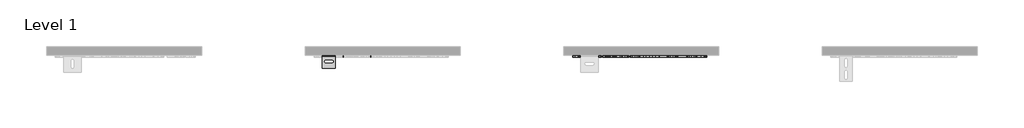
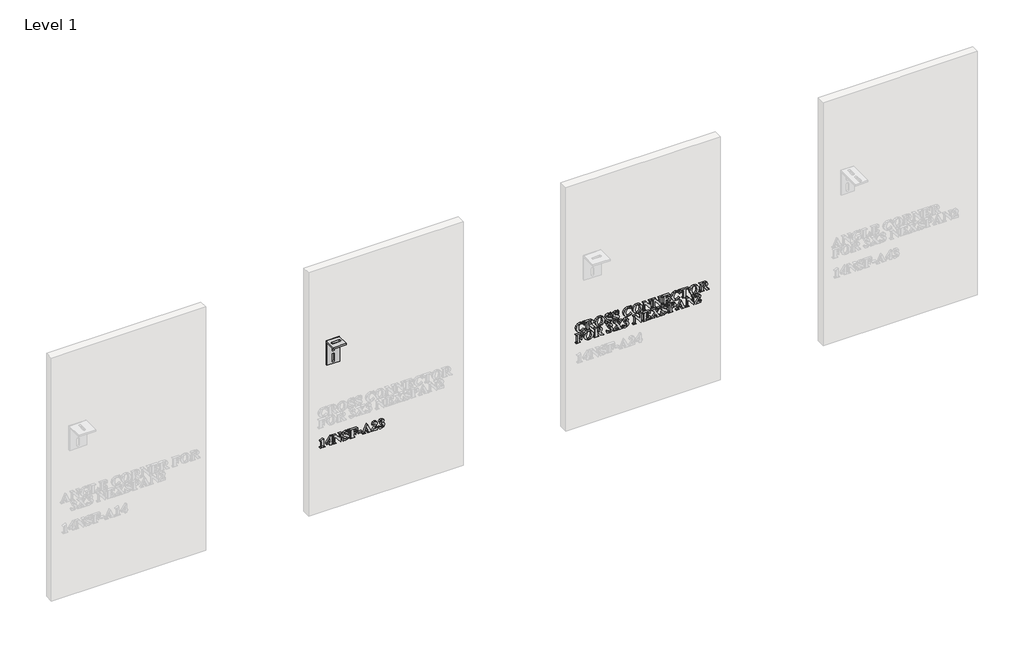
# One storey, part 6 of 21: 3 proxies.
"""IFC4 building model written with IfcOpenShell, lengths in millimetres."""

from ifc_helpers import new_model, si_unit, frame, origin, place, context, project, spatial, polyline, outline, extrude, transform, mapped, element, save
from components import generic_models_dfbbf76c

model = new_model("IFC4")

# Units and contexts
model_context = context("Model", 3, world=origin())
ifc_project = project(units=[si_unit("LENGTHUNIT", "METRE", prefix="MILLI")], contexts=[model_context])

# Site, building, storey
site = spatial("IfcSite", under=ifc_project)
building = spatial("IfcBuilding", under=site)
storey = spatial("IfcBuildingStorey", under=building, Name="Level 1", Elevation=0.0)

# Proxies
placement = place(None, origin())
element("IfcBuildingElementProxy", 1, Name="2\"\" Arial", ObjectType="2\"\" Arial", at=placement, inside=storey, context=model_context, shape_type="SweptSolid", body=[
    extrude(outline(polyline([(463.8692305, 5436.4026674), (455.0050049, 5416.6451396), (453.2321598, 5417.3099565), (454.4648412, 5421.8667225), (453.827725, 5423.9442753), (452.3111114, 5425.1769567), (447.9136245, 5425.5093652), (421.3209478, 5425.5093652), (415.2544934, 5424.9899769), (413.2046413, 5423.0024514), (412.4567222, 5416.6451396), (410.6838771, 5416.6451396), (410.6838771, 5445.0106614), (412.4567222, 5443.77798), (413.273893, 5439.3043162), (415.3791466, 5437.4691445), (421.3209478, 5437.0328584), (463.8692305, 5436.4026674)])), frame((0.0, -15490.3579358, 0.0), z_axis=(0.0, 1.0, 0.0), x_axis=(0.0, 0.0, 1.0)), (0.0, 0.0, 1.0), 12.7),
    extrude(outline(polyline([(430.1851733, 5453.874887), (422.2073703, 5453.874887), (422.2073703, 5472.4897607), (410.6838771, 5472.4897607), (410.6838771, 5484.0132539), (422.2073703, 5484.0132539), (422.2073703, 5488.4453667), (430.1851733, 5488.4453667), (430.1851733, 5484.0132539), (463.8692305, 5484.0132539), (463.8692305, 5478.9024738), (430.1851733, 5453.874887)]), holes=[polyline([(430.1851733, 5456.5618553), (451.6116686, 5472.4897607), (430.1851733, 5472.4897607), (430.1851733, 5456.5618553)])]), frame((0.0, -15490.3579358, 0.0), z_axis=(0.0, 1.0, 0.0), x_axis=(0.0, 0.0, 1.0)), (0.0, 0.0, 1.0), 12.7),
    extrude(outline(polyline([(462.9828079, 5511.0768426), (462.9828079, 5492.6558738), (461.2099628, 5492.6558738), (460.6074725, 5496.319292), (457.4565173, 5499.9688599), (419.5481027, 5499.9688599), (414.097989, 5498.4106952), (412.4567222, 5492.8774794), (410.6838771, 5492.8774794), (410.6838771, 5510.6059306), (412.4567222, 5509.5117527), (413.9179344, 5505.3358715), (419.5481027, 5503.5145501), (452.9551528, 5503.5145501), (409.7974546, 5537.3371108), (409.7974546, 5538.9714524), (452.3457373, 5538.9714524), (457.7820006, 5539.6293441), (460.0673087, 5541.4645158), (461.2099628, 5546.0628328), (462.9828079, 5546.0628328), (462.9828079, 5528.3343817), (461.2099628, 5528.3343817), (458.9662057, 5534.1653801), (452.3457373, 5535.4257622), (431.9164674, 5535.4257622), (462.9828079, 5511.0768426)])), frame((0.0, -15490.3579358, 0.0), z_axis=(0.0, 1.0, 0.0), x_axis=(0.0, 0.0, 1.0)), (0.0, 0.0, 1.0), 12.7),
    extrude(outline(polyline([(463.8692305, 5586.8382704), (463.8692305, 5585.0654253), (460.9329558, 5583.9573971), (460.3235403, 5582.3230555), (461.5631468, 5578.5626848), (463.259815, 5574.0128441), (463.8692305, 5568.9297647), (459.5409954, 5556.9976861), (449.0493534, 5552.2677907), (442.4427353, 5553.9021323), (437.0064719, 5558.5835514), (431.0992966, 5569.4283774), (427.0549937, 5577.1845748), (423.7863105, 5580.4463328), (420.2267699, 5581.5197351), (414.7905066, 5578.8535422), (412.4567222, 5571.6859848), (416.771107, 5560.8342337), (429.2987508, 5554.0406358), (429.2987508, 5552.2677907), (409.7974546, 5552.2677907), (409.7974546, 5554.0406358), (412.4705726, 5555.8619572), (413.3431448, 5558.0018366), (412.4844229, 5561.0627645), (410.3583938, 5566.6098307), (409.7974546, 5571.298175), (414.4788737, 5584.3590573), (425.6699585, 5589.4975381), (434.76964, 5586.8798215), (443.218355, 5574.1928986), (447.7058692, 5565.051666), (451.2654098, 5561.1320163), (454.3263377, 5560.2455937), (459.1254848, 5562.6694054), (461.2099628, 5569.2483228), (457.0756326, 5579.2621276), (446.1407794, 5585.0654253), (446.1407794, 5586.8382704), (463.8692305, 5586.8382704)])), frame((0.0, -15490.3579358, 0.0), z_axis=(0.0, 1.0, 0.0), x_axis=(0.0, 0.0, 1.0)), (0.0, 0.0, 1.0), 12.7),
    extrude(outline(polyline([(459.4371177, 5613.4309471), (459.4371177, 5617.8630599), (458.8415526, 5626.4225777), (455.1296581, 5632.8352909), (447.0272019, 5635.591511), (447.0272019, 5637.3643561), (462.9828079, 5637.3643561), (462.9828079, 5593.9296509), (461.2099628, 5593.9296509), (461.2099628, 5595.6055435), (460.5035948, 5598.9573288), (458.8484777, 5600.6124459), (454.1185824, 5601.0210313), (419.5481027, 5601.0210313), (414.963636, 5600.6193711), (413.2184916, 5599.123533), (412.4567222, 5595.6055435), (412.4567222, 5593.9296509), (410.6838771, 5593.9296509), (410.6838771, 5620.5223276), (412.4567222, 5620.5223276), (412.4567222, 5618.8602853), (413.1630902, 5615.5154252), (414.8182073, 5613.8533829), (419.5481027, 5613.4309471), (435.5037087, 5613.4309471), (435.5037087, 5615.2037922), (433.0868222, 5622.1151181), (423.0937929, 5625.8408629), (423.0937929, 5627.613708), (451.4593147, 5627.613708), (451.4593147, 5625.8408629), (444.0770768, 5623.9849157), (440.1989782, 5620.501552), (439.0493989, 5615.2037922), (439.0493989, 5613.4309471), (459.4371177, 5613.4309471)])), frame((0.0, -15490.3579358, 0.0), z_axis=(0.0, 1.0, 0.0), x_axis=(0.0, 0.0, 1.0)), (0.0, 0.0, 1.0), 12.7),
    extrude(outline(polyline([(5663.0706103, -15490.3579358), (5640.9100464, -15490.3579358), (5640.9100464, -15477.6579358), (5663.0706103, -15477.6579358), (5663.0706103, -15490.3579358)])), frame((0.0, 0.0, 424.866638), z_axis=(0.0, 0.0, 1.0), x_axis=(1.0, 0.0, 0.0)), (0.0, 0.0, 1.0), 7.977803),
    extrude(outline(polyline([(425.7530606, 5698.9153224), (419.1048914, 5701.8377468), (414.963636, 5703.222782), (413.273893, 5702.3779105), (412.4567222, 5697.0593752), (410.6838771, 5697.0593752), (410.6838771, 5722.4609215), (412.4567222, 5722.4609215), (413.8140568, 5718.7628774), (421.3070974, 5714.3307647), (463.8692305, 5694.6771145), (422.470527, 5675.8544856), (414.7420304, 5671.3877469), (412.4567222, 5666.7686544), (410.6838771, 5666.7686544), (410.6838771, 5684.5386566), (412.4567222, 5684.5386566), (413.3431448, 5679.4140261), (416.4317734, 5677.641181), (420.4345252, 5678.7215085), (425.7530606, 5681.1314699), (425.7530606, 5698.9153224)]), holes=[polyline([(429.2987508, 5697.3640829), (429.2987508, 5682.7381107), (445.6421667, 5690.1480493), (429.2987508, 5697.3640829)])]), frame((0.0, -15490.3579358, 0.0), z_axis=(0.0, 1.0, 0.0), x_axis=(0.0, 0.0, 1.0)), (0.0, 0.0, 1.0), 12.7),
    extrude(outline(polyline([(410.6838771, 5754.7737938), (425.7530606, 5756.394285), (422.664432, 5754.2959566), (421.6256555, 5752.2599548), (421.3209478, 5746.9067936), (421.3209478, 5735.7434095), (440.8914958, 5752.4607849), (451.1269062, 5755.2585561), (457.0617823, 5753.367983), (462.0479091, 5748.139475), (463.8692305, 5740.7572371), (460.3650913, 5730.7642078), (449.0493534, 5725.7434551), (453.516092, 5729.9124112), (455.0050049, 5735.4941032), (452.3249617, 5741.969143), (445.6006156, 5744.6214854), (434.2294763, 5741.5190065), (410.6838771, 5723.3473441), (410.6838771, 5754.7737938)])), frame((0.0, -15490.3579358, 0.0), z_axis=(0.0, 1.0, 0.0), x_axis=(0.0, 0.0, 1.0)), (0.0, 0.0, 1.0), 12.7),
    extrude(outline(polyline([(439.0493989, 5772.9870073), (432.8790669, 5784.8775348), (423.1214936, 5788.9426133), (417.3805225, 5786.8373597), (415.1159899, 5781.7958314), (418.2323192, 5774.5382467), (421.6533562, 5770.0368822), (422.2073703, 5767.5715194), (420.7184575, 5764.5452174), (417.124291, 5763.2363591), (412.4013208, 5765.4939666), (409.7974546, 5775.4385196), (411.3123369, 5784.6143781), (415.8569837, 5791.7265341), (422.5657482, 5796.2867626), (430.5729832, 5797.8068388), (439.1186507, 5794.9675166), (444.8526966, 5786.7265569), (449.0562786, 5793.1115694), (454.0216299, 5795.1475712), (460.9191054, 5791.5118536), (463.8692305, 5782.2805937), (461.4246433, 5772.3291155), (453.6061193, 5765.8956268), (458.5506952, 5775.2861658), (456.1892101, 5781.2348921), (450.5313411, 5783.6240779), (445.8291464, 5782.3429203), (442.3804087, 5779.302768), (439.0493989, 5772.9870073)])), frame((0.0, -15490.3579358, 0.0), z_axis=(0.0, 1.0, 0.0), x_axis=(0.0, 0.0, 1.0)), (0.0, 0.0, 1.0), 12.7),
])
element("IfcBuildingElementProxy", 2, Name="2\"\" Arial", ObjectType="2\"\" Arial", at=placement, inside=storey, context=model_context, shape_type="SweptSolid", body=[
    extrude(outline(polyline([(653.4647125, 6981.2755351), (653.4647125, 6979.50269), (650.7708189, 6978.3531107), (649.9190223, 6976.2617075), (651.2209554, 6971.8572954), (653.4647125, 6960.4723057), (649.8012943, 6946.6704295), (639.5035572, 6936.3449918), (625.4731502, 6932.5222945), (612.2460636, 6935.9918078), (602.710096, 6945.8463335), (599.3929366, 6960.4584554), (601.4220132, 6971.3863834), (607.9663047, 6980.3891125), (612.4676693, 6980.3891125), (605.0785062, 6972.0165745), (602.9386268, 6963.2700769), (605.854126, 6953.7964358), (614.4551948, 6948.4224991), (627.0797911, 6946.7050554), (639.8636664, 6949.0319146), (647.1420266, 6954.7659605), (649.9190223, 6963.3808797), (646.2625292, 6973.4431608), (635.7362614, 6979.50269), (635.7362614, 6981.2755351), (653.4647125, 6981.2755351)])), frame((0.0, -15490.3579358, 0.0), z_axis=(0.0, 1.0, 0.0), x_axis=(0.0, 0.0, 1.0)), (0.0, 0.0, 1.0), 12.7),
    extrude(outline(polyline([(624.2127681, 7006.9817892), (624.2127681, 7010.4166766), (600.2793591, 7027.2033038), (600.2793591, 7043.325114), (602.0522042, 7043.325114), (603.3956884, 7040.0564309), (607.7723998, 7036.9124009), (625.4592998, 7024.5024851), (628.9911397, 7031.455362), (638.395529, 7035.347311), (646.5326111, 7032.5841657), (651.2902072, 7025.4512342), (652.5782899, 7011.649358), (652.5782899, 6987.480493), (650.8054448, 6987.480493), (650.2029545, 6992.2657898), (648.5963136, 6994.0594104), (643.7140644, 6994.5718734), (609.1435847, 6994.5718734), (604.2751858, 6994.0594104), (602.6685449, 6992.2865653), (602.0522042, 6987.480493), (600.2793591, 6987.480493), (600.2793591, 7014.0731697), (602.0522042, 7014.0731697), (602.6546946, 7009.2878729), (604.2613354, 7007.4942523), (609.1435847, 7006.9817892), (624.2127681, 7006.9817892)]), holes=[polyline([(649.9190223, 7006.9817892), (649.9190223, 7011.1091942), (647.0450741, 7020.139624), (638.160073, 7022.9373952), (631.4288018, 7021.4138565), (627.862336, 7017.2241249), (626.8720358, 7009.1839953), (626.8720358, 7006.9817892), (649.9190223, 7006.9817892)])]), frame((0.0, -15490.3579358, 0.0), z_axis=(0.0, 1.0, 0.0), x_axis=(0.0, 0.0, 1.0)), (0.0, 0.0, 1.0), 12.7),
    extrude(outline(polyline([(653.4647125, 7073.1172221), (651.8788471, 7062.5753726), (646.1794271, 7053.8306064), (637.4606302, 7047.9459379), (626.8166344, 7045.9843817), (617.1733265, 7047.4906075), (608.9358294, 7052.009285), (601.7786598, 7061.2266946), (599.3929366, 7073.6158348), (601.8929252, 7085.9738118), (609.392891, 7095.1808336), (626.8581854, 7100.9425802), (637.4969874, 7099.010456), (646.2002026, 7093.2140835), (651.884041, 7084.3256199), (653.4647125, 7073.1172221)]), holes=[polyline([(650.8054448, 7073.5742838), (648.6863409, 7080.1878271), (641.4356814, 7084.9107972), (625.9440622, 7086.7598193), (611.8444034, 7084.9454231), (603.9774032, 7079.8761941), (602.0522042, 7073.505032), (606.5120177, 7064.6823575), (626.2487699, 7060.1671426), (643.4924587, 7063.089567), (648.9771983, 7067.511292), (650.8054448, 7073.5742838)])]), frame((0.0, -15490.3579358, 0.0), z_axis=(0.0, 1.0, 0.0), x_axis=(0.0, 0.0, 1.0)), (0.0, 0.0, 1.0), 12.7),
    extrude(outline(polyline([(653.4647125, 7142.6044403), (653.4647125, 7140.8315952), (650.5284378, 7139.723567), (649.9190223, 7138.0892254), (651.1586288, 7134.3288548), (652.855297, 7129.779014), (653.4647125, 7124.6959346), (649.1364773, 7112.763856), (638.6448354, 7108.0339606), (632.0382173, 7109.6683022), (626.6019539, 7114.3497214), (620.6947786, 7125.1945473), (616.6504757, 7132.9507447), (613.3817925, 7136.2125027), (609.8222519, 7137.285905), (604.3859886, 7134.6197122), (602.0522042, 7127.4521548), (606.366589, 7116.6004036), (618.8942328, 7109.8068058), (618.8942328, 7108.0339606), (599.3929366, 7108.0339606), (599.3929366, 7109.8068058), (602.0660546, 7111.6281271), (602.9386268, 7113.7680066), (602.0799049, 7116.8289344), (599.9538758, 7122.3760006), (599.3929366, 7127.0643449), (604.0743557, 7140.1252273), (615.2654405, 7145.263708), (624.365122, 7142.6459914), (632.813837, 7129.9590686), (637.3013512, 7120.8178359), (640.8608918, 7116.8981862), (643.9218197, 7116.0117637), (648.7209668, 7118.4355753), (650.8054448, 7125.0144927), (646.6711146, 7135.0282976), (635.7362614, 7140.8315952), (635.7362614, 7142.6044403), (653.4647125, 7142.6044403)])), frame((0.0, -15490.3579358, 0.0), z_axis=(0.0, 1.0, 0.0), x_axis=(0.0, 0.0, 1.0)), (0.0, 0.0, 1.0), 12.7),
    extrude(outline(polyline([(653.4647125, 7186.0391456), (653.4647125, 7184.2663005), (650.5284378, 7183.1582723), (649.9190223, 7181.5239307), (651.1586288, 7177.76356), (652.855297, 7173.2137192), (653.4647125, 7168.1306399), (649.1364773, 7156.1985613), (638.6448354, 7151.4686659), (632.0382173, 7153.1030075), (626.6019539, 7157.7844266), (620.6947786, 7168.6292526), (616.6504757, 7176.38545), (613.3817925, 7179.647208), (609.8222519, 7180.7206103), (604.3859886, 7178.0544174), (602.0522042, 7170.88686), (606.366589, 7160.0351089), (618.8942328, 7153.241511), (618.8942328, 7151.4686659), (599.3929366, 7151.4686659), (599.3929366, 7153.241511), (602.0660546, 7155.0628324), (602.9386268, 7157.2027118), (602.0799049, 7160.2636397), (599.9538758, 7165.8107059), (599.3929366, 7170.4990502), (604.0743557, 7183.5599325), (615.2654405, 7188.6984133), (624.365122, 7186.0806967), (632.813837, 7173.3937738), (637.3013512, 7164.2525412), (640.8608918, 7160.3328915), (643.9218197, 7159.4464689), (648.7209668, 7161.8702806), (650.8054448, 7168.449198), (646.6711146, 7178.4630028), (635.7362614, 7184.2663005), (635.7362614, 7186.0391456), (653.4647125, 7186.0391456)])), frame((0.0, -15490.3579358, 0.0), z_axis=(0.0, 1.0, 0.0), x_axis=(0.0, 0.0, 1.0)), (0.0, 0.0, 1.0), 12.7),
    extrude(outline(polyline([(653.4647125, 7262.2714854), (653.4647125, 7260.4986403), (650.7708189, 7259.3490611), (649.9190223, 7257.2576579), (651.2209554, 7252.8532458), (653.4647125, 7241.4682561), (649.8012943, 7227.6663799), (639.5035572, 7217.3409421), (625.4731502, 7213.5182448), (612.2460636, 7216.9877581), (602.710096, 7226.8422839), (599.3929366, 7241.4544057), (601.4220132, 7252.3823338), (607.9663047, 7261.3850629), (612.4676693, 7261.3850629), (605.0785062, 7253.0125248), (602.9386268, 7244.2660273), (605.854126, 7234.7923862), (614.4551948, 7229.4184495), (627.0797911, 7227.7010058), (639.8636664, 7230.027865), (647.1420266, 7235.7619109), (649.9190223, 7244.3768301), (646.2625292, 7254.4391111), (635.7362614, 7260.4986403), (635.7362614, 7262.2714854), (653.4647125, 7262.2714854)])), frame((0.0, -15490.3579358, 0.0), z_axis=(0.0, 1.0, 0.0), x_axis=(0.0, 0.0, 1.0)), (0.0, 0.0, 1.0), 12.7),
    extrude(outline(polyline([(653.4647125, 7297.3821289), (651.8788471, 7286.8402794), (646.1794271, 7278.0955131), (637.4606302, 7272.2108446), (626.8166344, 7270.2492885), (617.1733265, 7271.7555143), (608.9358294, 7276.2741918), (601.7786598, 7285.4916013), (599.3929366, 7297.8807416), (601.8929252, 7310.2387185), (609.392891, 7319.4457403), (626.8581854, 7325.2074869), (637.4969874, 7323.2753628), (646.2002026, 7317.4789903), (651.884041, 7308.5905266), (653.4647125, 7297.3821289)]), holes=[polyline([(650.8054448, 7297.8391905), (648.6863409, 7304.4527338), (641.4356814, 7309.175704), (625.9440622, 7311.024726), (611.8444034, 7309.2103299), (603.9774032, 7304.1411009), (602.0522042, 7297.7699388), (606.5120177, 7288.9472643), (626.2487699, 7284.4320494), (643.4924587, 7287.3544737), (648.9771983, 7291.7761987), (650.8054448, 7297.8391905)])]), frame((0.0, -15490.3579358, 0.0), z_axis=(0.0, 1.0, 0.0), x_axis=(0.0, 0.0, 1.0)), (0.0, 0.0, 1.0), 12.7),
    extrude(outline(polyline([(652.5782899, 7347.8389628), (652.5782899, 7329.4179941), (650.8054448, 7329.4179941), (650.2029545, 7333.0814123), (647.0519993, 7336.7309802), (609.1435847, 7336.7309802), (603.693471, 7335.1728155), (602.0522042, 7329.6395997), (600.2793591, 7329.6395997), (600.2793591, 7347.3680509), (602.0522042, 7346.273873), (603.5134164, 7342.0979918), (609.1435847, 7340.2766704), (642.5506348, 7340.2766704), (599.3929366, 7374.0992311), (599.3929366, 7375.7335727), (641.9412193, 7375.7335727), (647.3774826, 7376.3914644), (649.6627907, 7378.2266361), (650.8054448, 7382.8249531), (652.5782899, 7382.8249531), (652.5782899, 7365.096502), (650.8054448, 7365.096502), (648.5616877, 7370.9275004), (641.9412193, 7372.1878824), (621.5119494, 7372.1878824), (652.5782899, 7347.8389628)])), frame((0.0, -15490.3579358, 0.0), z_axis=(0.0, 1.0, 0.0), x_axis=(0.0, 0.0, 1.0)), (0.0, 0.0, 1.0), 12.7),
    extrude(outline(polyline([(652.5782899, 7404.5700064), (652.5782899, 7386.1490377), (650.8054448, 7386.1490377), (650.2029545, 7389.8124559), (647.0519993, 7393.4620238), (609.1435847, 7393.4620238), (603.693471, 7391.9038591), (602.0522042, 7386.3706433), (600.2793591, 7386.3706433), (600.2793591, 7404.0990945), (602.0522042, 7403.0049166), (603.5134164, 7398.8290354), (609.1435847, 7397.007714), (642.5506348, 7397.007714), (599.3929366, 7430.8302747), (599.3929366, 7432.4646163), (641.9412193, 7432.4646163), (647.3774826, 7433.122508), (649.6627907, 7434.9576797), (650.8054448, 7439.5559967), (652.5782899, 7439.5559967), (652.5782899, 7421.8275456), (650.8054448, 7421.8275456), (648.5616877, 7427.658544), (641.9412193, 7428.918926), (621.5119494, 7428.918926), (652.5782899, 7404.5700064)])), frame((0.0, -15490.3579358, 0.0), z_axis=(0.0, 1.0, 0.0), x_axis=(0.0, 0.0, 1.0)), (0.0, 0.0, 1.0), 12.7),
    extrude(outline(polyline([(649.0325997, 7463.4894057), (649.0325997, 7467.9215185), (648.3400821, 7475.9547229), (644.7320653, 7481.6472178), (636.6226839, 7484.7635471), (636.6226839, 7486.5363922), (652.5782899, 7486.5363922), (652.5782899, 7443.9881095), (650.8054448, 7443.9881095), (650.8054448, 7445.6640021), (649.7805187, 7449.5144001), (647.827619, 7450.8994354), (643.7140644, 7451.0794899), (609.1435847, 7451.0794899), (604.559118, 7450.6778297), (602.8139736, 7449.1819917), (602.0522042, 7445.6640021), (602.0522042, 7443.9881095), (600.2793591, 7443.9881095), (600.2793591, 7487.7967743), (616.8859317, 7488.7385982), (606.4427659, 7482.6236676), (602.9386268, 7471.3010045), (602.9386268, 7468.2816277), (603.5549675, 7465.1652984), (605.1339076, 7463.8425897), (610.4039667, 7463.4894057), (625.0991907, 7463.4894057), (624.0950401, 7468.4963081), (620.1753904, 7471.5295353), (612.6892749, 7473.2400539), (612.6892749, 7475.012899), (640.1683741, 7475.012899), (640.1683741, 7473.2400539), (630.9024884, 7470.7331401), (627.7584584, 7463.4894057), (649.0325997, 7463.4894057)])), frame((0.0, -15490.3579358, 0.0), z_axis=(0.0, 1.0, 0.0), x_axis=(0.0, 0.0, 1.0)), (0.0, 0.0, 1.0), 12.7),
    extrude(outline(polyline([(653.4647125, 7545.9267035), (653.4647125, 7544.1538584), (650.7708189, 7543.0042791), (649.9190223, 7540.9128759), (651.2209554, 7536.5084638), (653.4647125, 7525.1234741), (649.8012943, 7511.3215979), (639.5035572, 7500.9961602), (625.4731502, 7497.1734629), (612.2460636, 7500.6429762), (602.710096, 7510.4975019), (599.3929366, 7525.1096238), (601.4220132, 7536.0375518), (607.9663047, 7545.0402809), (612.4676693, 7545.0402809), (605.0785062, 7536.6677429), (602.9386268, 7527.9212453), (605.854126, 7518.4476042), (614.4551948, 7513.0736675), (627.0797911, 7511.3562238), (639.8636664, 7513.683083), (647.1420266, 7519.4171289), (649.9190223, 7528.0320481), (646.2625292, 7538.0943292), (635.7362614, 7544.1538584), (635.7362614, 7545.9267035), (653.4647125, 7545.9267035)])), frame((0.0, -15490.3579358, 0.0), z_axis=(0.0, 1.0, 0.0), x_axis=(0.0, 0.0, 1.0)), (0.0, 0.0, 1.0), 12.7),
    extrude(outline(polyline([(652.5782899, 7599.9984794), (652.5782899, 7553.9045065), (637.5091065, 7553.9045065), (637.5091065, 7555.6773516), (646.7195908, 7559.7770559), (649.0325997, 7567.2008448), (649.0325997, 7570.7465351), (609.1435847, 7570.7465351), (604.559118, 7570.3448748), (602.8139736, 7568.8213361), (602.0522042, 7565.3171969), (602.0522042, 7563.6551546), (600.2793591, 7563.6551546), (600.2793591, 7590.2478313), (602.0522042, 7590.2478313), (602.0522042, 7588.5996394), (602.7585722, 7585.2340037), (604.4136893, 7583.5788866), (609.1435847, 7583.1564508), (649.0325997, 7583.1564508), (649.0325997, 7586.7021411), (648.3123814, 7591.6328665), (644.7874667, 7595.5940673), (637.5091065, 7598.2256343), (637.5091065, 7599.9984794), (652.5782899, 7599.9984794)])), frame((0.0, -15490.3579358, 0.0), z_axis=(0.0, 1.0, 0.0), x_axis=(0.0, 0.0, 1.0)), (0.0, 0.0, 1.0), 12.7),
    extrude(outline(polyline([(653.4647125, 7633.3362777), (651.8788471, 7622.7944282), (646.1794271, 7614.049662), (637.4606302, 7608.1649935), (626.8166344, 7606.2034373), (617.1733265, 7607.7096631), (608.9358294, 7612.2283406), (601.7786598, 7621.4457502), (599.3929366, 7633.8348904), (601.8929252, 7646.1928674), (609.392891, 7655.3998892), (626.8581854, 7661.1616358), (637.4969874, 7659.2295116), (646.2002026, 7653.4331391), (651.884041, 7644.5446755), (653.4647125, 7633.3362777)]), holes=[polyline([(650.8054448, 7633.7933394), (648.6863409, 7640.4068827), (641.4356814, 7645.1298529), (625.9440622, 7646.9788749), (611.8444034, 7645.1644787), (603.9774032, 7640.0952497), (602.0522042, 7633.7240876), (606.5120177, 7624.9014131), (626.2487699, 7620.3861982), (643.4924587, 7623.3086226), (648.9771983, 7627.7303476), (650.8054448, 7633.7933394)])]), frame((0.0, -15490.3579358, 0.0), z_axis=(0.0, 1.0, 0.0), x_axis=(0.0, 0.0, 1.0)), (0.0, 0.0, 1.0), 12.7),
    extrude(outline(polyline([(624.2127681, 7685.0950448), (624.2127681, 7688.5299322), (600.2793591, 7705.3165594), (600.2793591, 7721.4383696), (602.0522042, 7721.4383696), (603.3956884, 7718.1696865), (607.7723998, 7715.0256565), (625.4592998, 7702.6157407), (628.9911397, 7709.5686176), (638.395529, 7713.4605666), (646.5326111, 7710.6974213), (651.2902072, 7703.5644898), (652.5782899, 7689.7626136), (652.5782899, 7665.5937486), (650.8054448, 7665.5937486), (650.2029545, 7670.3790454), (648.5963136, 7672.172666), (643.7140644, 7672.685129), (609.1435847, 7672.685129), (604.2751858, 7672.172666), (602.6685449, 7670.3998209), (602.0522042, 7665.5937486), (600.2793591, 7665.5937486), (600.2793591, 7692.1864253), (602.0522042, 7692.1864253), (602.6546946, 7687.4011285), (604.2613354, 7685.6075079), (609.1435847, 7685.0950448), (624.2127681, 7685.0950448)]), holes=[polyline([(649.9190223, 7685.0950448), (649.9190223, 7689.2224499), (647.0450741, 7698.2528796), (638.160073, 7701.0506508), (631.4288018, 7699.5271121), (627.862336, 7695.3373805), (626.8720358, 7687.2972509), (626.8720358, 7685.0950448), (649.9190223, 7685.0950448)])]), frame((0.0, -15490.3579358, 0.0), z_axis=(0.0, 1.0, 0.0), x_axis=(0.0, 0.0, 1.0)), (0.0, 0.0, 1.0), 12.7),
    extrude(outline(polyline([(584.9362614, 6951.1371682), (584.9362614, 6955.569281), (584.3406962, 6964.1287988), (580.6288018, 6970.5415119), (572.5263456, 6973.2977321), (572.5263456, 6975.0705772), (588.4819516, 6975.0705772), (588.4819516, 6931.6358719), (586.7091065, 6931.6358719), (586.7091065, 6933.3117646), (586.0027385, 6936.6635499), (584.3476214, 6938.318667), (579.617726, 6938.7272524), (545.0472463, 6938.7272524), (540.4627797, 6938.3255922), (538.7176353, 6936.8297541), (537.9558659, 6933.3117646), (537.9558659, 6931.6358719), (536.1830208, 6931.6358719), (536.1830208, 6958.2285486), (537.9558659, 6958.2285486), (537.9558659, 6956.5665063), (538.6622338, 6953.2216462), (540.317351, 6951.5596039), (545.0472463, 6951.1371682), (561.0028523, 6951.1371682), (561.0028523, 6952.9100133), (558.5859658, 6959.8213392), (548.5929366, 6963.547084), (548.5929366, 6965.3199291), (576.9584584, 6965.3199291), (576.9584584, 6963.547084), (569.5762205, 6961.6911367), (565.6981218, 6958.2077731), (564.5485426, 6952.9100133), (564.5485426, 6951.1371682), (584.9362614, 6951.1371682)])), frame((0.0, -15490.3579358, 0.0), z_axis=(0.0, 1.0, 0.0), x_axis=(0.0, 0.0, 1.0)), (0.0, 0.0, 1.0), 12.7),
    extrude(outline(polyline([(589.3683741, 7007.521953), (587.7825088, 6996.9801035), (582.0830888, 6988.2353372), (573.3642919, 6982.3506687), (562.720296, 6980.3891125), (553.0769882, 6981.8953384), (544.839491, 6986.4140158), (537.6823214, 6995.6314254), (535.2965982, 7008.0205657), (537.7965868, 7020.3785426), (545.2965527, 7029.5855644), (562.7618471, 7035.347311), (573.4006491, 7033.4151869), (582.1038643, 7027.6188144), (587.7877027, 7018.7303507), (589.3683741, 7007.521953)]), holes=[polyline([(586.7091065, 7007.9790146), (584.5900026, 7014.5925579), (577.339343, 7019.3155281), (561.8477238, 7021.1645501), (547.7480651, 7019.350154), (539.8810649, 7014.280925), (537.9558659, 7007.9097628), (542.4156794, 6999.0870883), (562.1524316, 6994.5718734), (579.3961204, 6997.4942978), (584.88086, 7001.9160228), (586.7091065, 7007.9790146)])]), frame((0.0, -15490.3579358, 0.0), z_axis=(0.0, 1.0, 0.0), x_axis=(0.0, 0.0, 1.0)), (0.0, 0.0, 1.0), 12.7),
    extrude(outline(polyline([(560.1164298, 7059.28072), (560.1164298, 7062.7156075), (536.1830208, 7079.5022346), (536.1830208, 7095.6240449), (537.9558659, 7095.6240449), (539.2993501, 7092.3553617), (543.6760614, 7089.2113317), (561.3629615, 7076.8014159), (564.8948014, 7083.7542928), (574.2991907, 7087.6462418), (582.4362727, 7084.8830965), (587.1938688, 7077.750165), (588.4819516, 7063.9482888), (588.4819516, 7039.7794238), (586.7091065, 7039.7794238), (586.1066161, 7044.5647206), (584.4999753, 7046.3583412), (579.617726, 7046.8708043), (545.0472463, 7046.8708043), (540.1788474, 7046.3583412), (538.5722066, 7044.5854961), (537.9558659, 7039.7794238), (536.1830208, 7039.7794238), (536.1830208, 7066.3721005), (537.9558659, 7066.3721005), (538.5583562, 7061.5868037), (540.1649971, 7059.7931831), (545.0472463, 7059.28072), (560.1164298, 7059.28072)]), holes=[polyline([(585.8226839, 7059.28072), (585.8226839, 7063.4081251), (582.9487358, 7072.4385549), (574.0637347, 7075.2363261), (567.3324634, 7073.7127873), (563.7659977, 7069.5230557), (562.7756975, 7061.4829261), (562.7756975, 7059.28072), (585.8226839, 7059.28072)])]), frame((0.0, -15490.3579358, 0.0), z_axis=(0.0, 1.0, 0.0), x_axis=(0.0, 0.0, 1.0)), (0.0, 0.0, 1.0), 12.7),
    extrude(outline(polyline([(564.5485426, 7124.8759892), (558.3782106, 7136.7665168), (548.6206373, 7140.8315952), (542.8796662, 7138.7263417), (540.6151335, 7133.6848134), (543.7314628, 7126.4272287), (547.1524999, 7121.9258641), (547.706514, 7119.4605014), (546.2176011, 7116.4341994), (542.6234346, 7115.1253411), (537.9004645, 7117.3829485), (535.2965982, 7127.3275016), (536.8114805, 7136.5033601), (541.3561274, 7143.6155161), (548.0648919, 7148.1757446), (556.0721269, 7149.6958208), (564.6177943, 7146.8564985), (570.3518402, 7138.6155388), (574.5554222, 7145.0005513), (579.5207736, 7147.0365531), (586.4182491, 7143.4008356), (589.3683741, 7134.1695757), (586.9237869, 7124.2180975), (579.105263, 7117.7846088), (584.0498388, 7127.1751477), (581.6883537, 7133.1238741), (576.0304847, 7135.5130599), (571.3282901, 7134.2319023), (567.8795523, 7131.1917499), (564.5485426, 7124.8759892)])), frame((0.0, -15490.3579358, 0.0), z_axis=(0.0, 1.0, 0.0), x_axis=(0.0, 0.0, 1.0)), (0.0, 0.0, 1.0), 12.7),
    extrude(outline(polyline([(566.5845444, 7187.2302759), (578.4681468, 7196.7177673), (584.2021927, 7201.7315949), (586.1481672, 7204.6955703), (586.7091065, 7208.3520634), (588.4819516, 7208.3520634), (588.4819516, 7188.9200189), (586.7091065, 7188.9200189), (586.2243441, 7192.382607), (584.88086, 7194.1000507), (583.0110624, 7194.6956159), (575.9473826, 7190.457408), (569.5069687, 7185.3050769), (579.146814, 7178.9754659), (584.3406962, 7176.0530415), (586.0304392, 7176.939464), (586.7091065, 7181.3577265), (588.4819516, 7181.3577265), (588.4819516, 7155.8176766), (586.7091065, 7155.8176766), (585.9334867, 7158.5877471), (584.2021927, 7160.6237489), (579.0775623, 7164.363344), (559.4377625, 7177.2718725), (546.8616425, 7167.2026663), (539.7425613, 7160.000483), (537.9558659, 7154.6126959), (536.1830208, 7154.6126959), (536.1830208, 7174.9588636), (537.9558659, 7174.9588636), (538.1774715, 7171.6486294), (539.4655543, 7168.9131848), (541.4046036, 7167.9921364), (547.000146, 7171.5655273), (556.5291885, 7179.1832211), (545.781315, 7186.2469009), (540.4627797, 7189.2108763), (538.8422884, 7188.3244538), (537.9558659, 7184.404804), (536.1830208, 7184.404804), (536.1830208, 7209.6955476), (537.9558659, 7209.6955476), (539.2993501, 7206.0944559), (545.6428115, 7200.9836759), (566.5845444, 7187.2302759)])), frame((0.0, -15490.3579358, 0.0), z_axis=(0.0, 1.0, 0.0), x_axis=(0.0, 0.0, 1.0)), (0.0, 0.0, 1.0), 12.7),
    extrude(outline(polyline([(564.5485426, 7220.6096253), (558.3782106, 7232.5001529), (548.6206373, 7236.5652313), (542.8796662, 7234.4599777), (540.6151335, 7229.4184495), (543.7314628, 7222.1608648), (547.1524999, 7217.6595002), (547.706514, 7215.1941375), (546.2176011, 7212.1678355), (542.6234346, 7210.8589772), (537.9004645, 7213.1165846), (535.2965982, 7223.0611377), (536.8114805, 7232.2369962), (541.3561274, 7239.3491522), (548.0648919, 7243.9093807), (556.0721269, 7245.4294569), (564.6177943, 7242.5901346), (570.3518402, 7234.3491749), (574.5554222, 7240.7341874), (579.5207736, 7242.7701892), (586.4182491, 7239.1344717), (589.3683741, 7229.9032118), (586.9237869, 7219.9517336), (579.105263, 7213.5182448), (584.0498388, 7222.9087838), (581.6883537, 7228.8575102), (576.0304847, 7231.246696), (571.3282901, 7229.9655384), (567.8795523, 7226.925386), (564.5485426, 7220.6096253)])), frame((0.0, -15490.3579358, 0.0), z_axis=(0.0, 1.0, 0.0), x_axis=(0.0, 0.0, 1.0)), (0.0, 0.0, 1.0), 12.7),
    extrude(outline(polyline([(588.4819516, 7289.3350741), (588.4819516, 7270.9141054), (586.7091065, 7270.9141054), (586.1066161, 7274.5775236), (582.955661, 7278.2270915), (545.0472463, 7278.2270915), (539.5971326, 7276.6689268), (537.9558659, 7271.135711), (536.1830208, 7271.135711), (536.1830208, 7288.8641621), (537.9558659, 7287.7699843), (539.4170781, 7283.594103), (545.0472463, 7281.7727817), (578.4542964, 7281.7727817), (535.2965982, 7315.5953424), (535.2965982, 7317.2296839), (577.8448809, 7317.2296839), (583.2811442, 7317.8875757), (585.5664524, 7319.7227474), (586.7091065, 7324.3210644), (588.4819516, 7324.3210644), (588.4819516, 7306.5926133), (586.7091065, 7306.5926133), (584.4653494, 7312.4236116), (577.8448809, 7313.6839937), (557.4156111, 7313.6839937), (588.4819516, 7289.3350741)])), frame((0.0, -15490.3579358, 0.0), z_axis=(0.0, 1.0, 0.0), x_axis=(0.0, 0.0, 1.0)), (0.0, 0.0, 1.0), 12.7),
    extrude(outline(polyline([(584.9362614, 7348.2544734), (584.9362614, 7352.6865862), (584.2437437, 7360.7197906), (580.6357269, 7366.4122855), (572.5263456, 7369.5286148), (572.5263456, 7371.3014599), (588.4819516, 7371.3014599), (588.4819516, 7328.7531772), (586.7091065, 7328.7531772), (586.7091065, 7330.4290698), (585.6841804, 7334.2794678), (583.7312807, 7335.664503), (579.617726, 7335.8445576), (545.0472463, 7335.8445576), (540.4627797, 7335.4428974), (538.7176353, 7333.9470593), (537.9558659, 7330.4290698), (537.9558659, 7328.7531772), (536.1830208, 7328.7531772), (536.1830208, 7372.561842), (552.7895933, 7373.5036659), (542.3464276, 7367.3887353), (538.8422884, 7356.0660722), (538.8422884, 7353.0466954), (539.4586291, 7349.9303661), (541.0375693, 7348.6076574), (546.3076284, 7348.2544734), (561.0028523, 7348.2544734), (559.9987018, 7353.2613758), (556.079052, 7356.294603), (548.5929366, 7358.0051215), (548.5929366, 7359.7779666), (576.0720358, 7359.7779666), (576.0720358, 7358.0051215), (566.80615, 7355.4982077), (563.66212, 7348.2544734), (584.9362614, 7348.2544734)])), frame((0.0, -15490.3579358, 0.0), z_axis=(0.0, 1.0, 0.0), x_axis=(0.0, 0.0, 1.0)), (0.0, 0.0, 1.0), 12.7),
    extrude(outline(polyline([(566.5845444, 7411.4951827), (578.4681468, 7420.9826741), (584.2021927, 7425.9965017), (586.1481672, 7428.9604771), (586.7091065, 7432.6169701), (588.4819516, 7432.6169701), (588.4819516, 7413.1849257), (586.7091065, 7413.1849257), (586.2243441, 7416.6475138), (584.88086, 7418.3649575), (583.0110624, 7418.9605226), (575.9473826, 7414.7223148), (569.5069687, 7409.5699837), (579.146814, 7403.2403726), (584.3406962, 7400.3179482), (586.0304392, 7401.2043708), (586.7091065, 7405.6226332), (588.4819516, 7405.6226332), (588.4819516, 7380.0825833), (586.7091065, 7380.0825833), (585.9334867, 7382.8526538), (584.2021927, 7384.8886556), (579.0775623, 7388.6282508), (559.4377625, 7401.5367793), (546.8616425, 7391.467573), (539.7425613, 7384.2653898), (537.9558659, 7378.8776027), (536.1830208, 7378.8776027), (536.1830208, 7399.2237704), (537.9558659, 7399.2237704), (538.1774715, 7395.9135362), (539.4655543, 7393.1780916), (541.4046036, 7392.2570431), (547.000146, 7395.8304341), (556.5291885, 7403.4481279), (545.781315, 7410.5118076), (540.4627797, 7413.4757831), (538.8422884, 7412.5893605), (537.9558659, 7408.6697108), (536.1830208, 7408.6697108), (536.1830208, 7433.9604543), (537.9558659, 7433.9604543), (539.2993501, 7430.3593627), (545.6428115, 7425.2485826), (566.5845444, 7411.4951827)])), frame((0.0, -15490.3579358, 0.0), z_axis=(0.0, 1.0, 0.0), x_axis=(0.0, 0.0, 1.0)), (0.0, 0.0, 1.0), 12.7),
    extrude(outline(polyline([(589.3683741, 7473.2400539), (589.3683741, 7471.4672087), (586.4320994, 7470.3591806), (585.8226839, 7468.724839), (587.0622905, 7464.9644683), (588.7589586, 7460.4146275), (589.3683741, 7455.3315481), (585.040139, 7443.3994695), (574.548497, 7438.6695742), (567.9418789, 7440.3039157), (562.5056156, 7444.9853349), (556.5984403, 7455.8301608), (552.5541373, 7463.5863582), (549.2854542, 7466.8481162), (545.7259136, 7467.9215185), (540.2896503, 7465.2553257), (537.9558659, 7458.0877683), (542.2702507, 7447.2360171), (554.7978944, 7440.4424193), (554.7978944, 7438.6695742), (535.2965982, 7438.6695742), (535.2965982, 7440.4424193), (537.9697162, 7442.2637406), (538.8422884, 7444.4036201), (537.9835666, 7447.464548), (535.8575375, 7453.0116141), (535.2965982, 7457.6999584), (539.9780173, 7470.7608408), (551.1691021, 7475.8993215), (560.2687837, 7473.2816049), (568.7174987, 7460.5946821), (573.2050128, 7451.4534495), (576.7645534, 7447.5337997), (579.8254813, 7446.6473772), (584.6246284, 7449.0711888), (586.7091065, 7455.6501063), (582.5747763, 7465.6639111), (571.639923, 7471.4672087), (571.639923, 7473.2400539), (589.3683741, 7473.2400539)])), frame((0.0, -15490.3579358, 0.0), z_axis=(0.0, 1.0, 0.0), x_axis=(0.0, 0.0, 1.0)), (0.0, 0.0, 1.0), 12.7),
    extrude(outline(polyline([(560.1164298, 7498.946308), (561.030553, 7512.2010953), (565.9266526, 7521.3354027), (574.5623474, 7524.6525621), (584.5069004, 7519.6041087), (588.4819516, 7502.9490598), (588.4819516, 7479.4450118), (586.7091065, 7479.4450118), (586.1066161, 7484.2303085), (584.4999753, 7486.0239292), (579.617726, 7486.5363922), (545.0472463, 7486.5363922), (540.1788474, 7486.0239292), (538.5722066, 7484.2510841), (537.9558659, 7479.4450118), (536.1830208, 7479.4450118), (536.1830208, 7506.0376884), (537.9558659, 7506.0376884), (538.5583562, 7501.266242), (540.1649971, 7499.458771), (545.0472463, 7498.946308), (560.1164298, 7498.946308)]), holes=[polyline([(585.8226839, 7498.946308), (585.8226839, 7500.7330035), (583.0664638, 7509.3548479), (574.3822928, 7512.2426463), (565.5457679, 7509.3548479), (562.6925953, 7501.1346637), (562.7756975, 7498.946308), (585.8226839, 7498.946308)])]), frame((0.0, -15490.3579358, 0.0), z_axis=(0.0, 1.0, 0.0), x_axis=(0.0, 0.0, 1.0)), (0.0, 0.0, 1.0), 12.7),
    extrude(outline(polyline([(551.2522042, 7558.7244291), (544.604035, 7561.6468535), (540.4627797, 7563.0318887), (538.7730367, 7562.1870172), (537.9558659, 7556.8684819), (536.1830208, 7556.8684819), (536.1830208, 7582.2700283), (537.9558659, 7582.2700283), (539.3132004, 7578.5719842), (546.8062411, 7574.1398714), (589.3683741, 7554.4862213), (547.9696707, 7535.6635923), (540.241174, 7531.1968537), (537.9558659, 7526.5777611), (536.1830208, 7526.5777611), (536.1830208, 7544.3477633), (537.9558659, 7544.3477633), (538.8422884, 7539.2231329), (541.930917, 7537.4502878), (545.9336689, 7538.5306153), (551.2522042, 7540.9405766), (551.2522042, 7558.7244291)]), holes=[polyline([(554.7978944, 7557.1731897), (554.7978944, 7542.5472175), (571.1413103, 7549.957156), (554.7978944, 7557.1731897)])]), frame((0.0, -15490.3579358, 0.0), z_axis=(0.0, 1.0, 0.0), x_axis=(0.0, 0.0, 1.0)), (0.0, 0.0, 1.0), 12.7),
    extrude(outline(polyline([(588.4819516, 7602.2422365), (588.4819516, 7583.8212678), (586.7091065, 7583.8212678), (586.1066161, 7587.484686), (582.955661, 7591.1342539), (545.0472463, 7591.1342539), (539.5971326, 7589.5760892), (537.9558659, 7584.0428734), (536.1830208, 7584.0428734), (536.1830208, 7601.7713245), (537.9558659, 7600.6771467), (539.4170781, 7596.5012654), (545.0472463, 7594.6799441), (578.4542964, 7594.6799441), (535.2965982, 7628.5025047), (535.2965982, 7630.1368463), (577.8448809, 7630.1368463), (583.2811442, 7630.7947381), (585.5664524, 7632.6299098), (586.7091065, 7637.2282268), (588.4819516, 7637.2282268), (588.4819516, 7619.4997757), (586.7091065, 7619.4997757), (584.4653494, 7625.330774), (577.8448809, 7626.5911561), (557.4156111, 7626.5911561), (588.4819516, 7602.2422365)])), frame((0.0, -15490.3579358, 0.0), z_axis=(0.0, 1.0, 0.0), x_axis=(0.0, 0.0, 1.0)), (0.0, 0.0, 1.0), 12.7),
    extrude(outline(polyline([(536.1830208, 7671.3139441), (551.2522042, 7672.9344354), (548.1635756, 7670.836107), (547.1247992, 7668.8001052), (546.8200914, 7663.446944), (546.8200914, 7652.2835599), (566.3906394, 7669.0009353), (576.6260499, 7671.7987065), (582.5609259, 7669.9081334), (587.5470528, 7664.6796253), (589.3683741, 7657.2973875), (585.864235, 7647.3043582), (574.548497, 7642.2836054), (579.0152357, 7646.4525615), (580.5041486, 7652.0342535), (577.8241054, 7658.5092933), (571.0997593, 7661.1616358), (559.7286199, 7658.0591569), (536.1830208, 7639.8874945), (536.1830208, 7671.3139441)])), frame((0.0, -15490.3579358, 0.0), z_axis=(0.0, 1.0, 0.0), x_axis=(0.0, 0.0, 1.0)), (0.0, 0.0, 1.0), 12.7),
])
generic_models_shape = generic_models_dfbbf76c(model_context)
element("IfcBuildingElementProxy", 3, Name="14NSF-A23 : 14NSF-A23", ObjectType="14NSF-A23 : 14NSF-A23", at=placement, inside=storey, context=model_context, shape_type="MappedRepresentation", body=[
    mapped(generic_models_shape, transform((5494.880478, -15477.6579358, 1066.8), x_axis=(1.0, 0.0, 0.0), y_axis=(0.0, 0.0, 1.0), z_axis=(0.0, -1.0, 0.0))),
])

save(model, "model.ifc")
